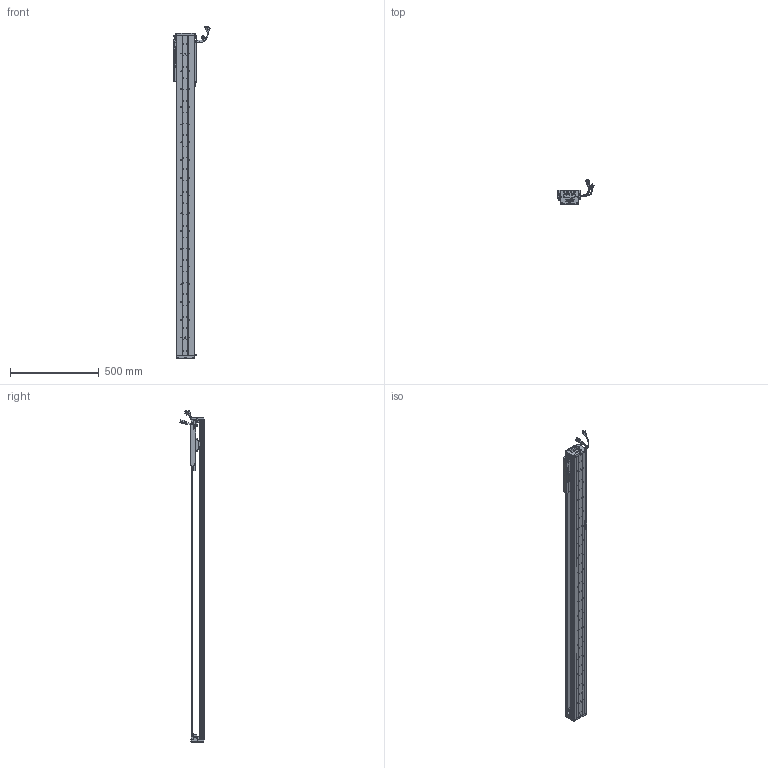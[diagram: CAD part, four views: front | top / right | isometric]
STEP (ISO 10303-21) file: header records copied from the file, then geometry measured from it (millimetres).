
FILE_DESCRIPTION (( 'STEP AP203' ), '1' );
FILE_NAME ('Z3-RY100D-1-L500-B-K.SLDASM_1500.step', '2021-05-17T02:50:57', ( '盈信电脑' ), ( '东莞市道滘镇水果街19号' ), 'SwSTEP 2.0', 'SolidWorks 2016', '' );
FILE_SCHEMA (( 'CONFIG_CONTROL_DESIGN' ));
Length unit declared in the file: millimetre
Products named in the file (36): SEAL-Part-1; 覜茼ん672; SCALE-Part-1; SCREW-M1.6-3; 080黍杅芛假蚾釱21遴; SCALE-Part-2; HARNESS; PBU_SHEET; PSLH080_PSLF2; Z-100詩湍傷裔啣; SCREW-M1.6-1; SHIELDPLATE; HOLDER0; COVER-Part-1; 140雄赽晤鎢ん堤盄; HARNESS-Part-2; Z-RY100D覜茼んえ; LABEL-Part-1; SCREW-M1.6-2; 140蚥薯蝶輸; Z3-RY100铝滑块（21款）; Z3-RY100-L500詩湍90mm遵_1500; Z3-RY100D-1-L500-B-K.SLDASM_1500; 100-Z-臏賑輸盄裔(21遴); Z3-RY100D-500-倰第菁釱_1500; SCREW-M1.6; SCALE; Z-RY100D詩湍奻揤裔; 榋妏寠巭燃_暯_M2_2; LABEL; SCREW-M1.7-1; SEAL; HARNESS-Part-1; SCREW-M1.7; COVER; Z-RY100D詩湍狟揤裔
Assembly tree (43 placements, depth 4):
  Z3-RY100D-1-L500-B-K.SLDASM_1500
    Z3-RY100D-500-倰第菁釱_1500
    Z3-RY100铝滑块（21款）
    PSLH080_PSLF2
      SCALE
        SCALE-Part-1
        SCALE-Part-2
      HARNESS
        HARNESS-Part-1
        HARNESS-Part-2
      LABEL
        LABEL-Part-1
      COVER
        COVER-Part-1
      SEAL
        SEAL-Part-1
      榋妏寠巭燃_暯_M2_2
      SHIELDPLATE
      SCREW-M1.7
      SCREW-M1.7-1
      PBU_SHEET
      SCREW-M1.6
      SCREW-M1.6-1
      SCREW-M1.6-2
      SCREW-M1.6-3
      HOLDER0
    080黍杅芛假蚾釱21遴
    Z-100詩湍傷裔啣  x2
    140蚥薯蝶輸  x2
    覜茼ん672  x3
    Z-RY100D覜茼んえ  x3
    100-Z-臏賑輸盄裔(21遴)
    140雄赽晤鎢ん堤盄
    Z3-RY100-L500詩湍90mm遵_1500
    Z-RY100D詩湍狟揤裔  x2
    Z-RY100D詩湍奻揤裔  x2
Bounding box: 205.83 x 136.11 x 1870.43 mm (x, y, z)
Volume: 3616880.8 mm3; surface area: 1406875 mm2
Topology: 38 solids, 38 shells, 2777 faces, 7435 edges, 4724 vertices
Faces by surface type: cylinder 1282, plane 1147, cone 226, torus 69, bspline 53
Entity records: 77909 total; most frequent: CARTESIAN_POINT 16361, DIRECTION 12453, ORIENTED_EDGE 11750, EDGE_CURVE 5875, AXIS2_PLACEMENT_3D 4632, VERTEX_POINT 3792, LINE 3189, VECTOR 3189
